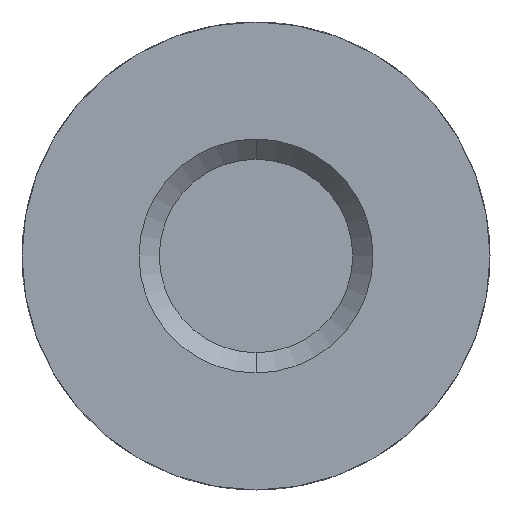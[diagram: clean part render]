
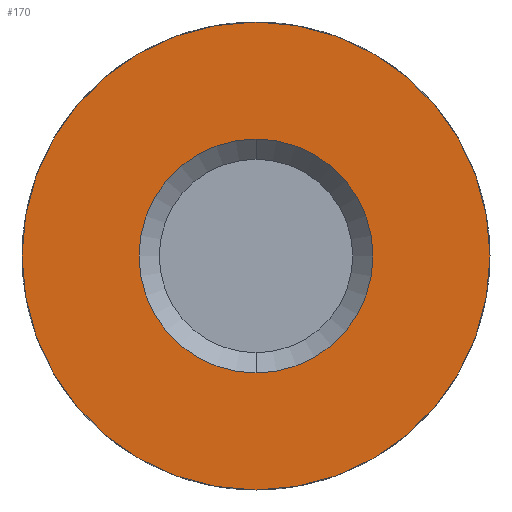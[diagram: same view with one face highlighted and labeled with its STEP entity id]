
A CAD part, front view. The second image highlights one B-rep face of the part: STEP entity #170.
In plain terms, the highlighted planar face has unit normal (0, -1, 0).
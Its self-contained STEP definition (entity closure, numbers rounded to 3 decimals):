
#30 = DIRECTION ( 'NONE',  ( 0., 0., 1. ) ) ;
#59 = EDGE_CURVE ( 'NONE', #509, #511, #322, .T. ) ;
#74 = ORIENTED_EDGE ( 'NONE', *, *, #168, .T. ) ;
#81 = DIRECTION ( 'NONE',  ( 0., 1., 0. ) ) ;
#95 = DIRECTION ( 'NONE',  ( 0., 0., -1. ) ) ;
#124 = EDGE_LOOP ( 'NONE', ( #186, #239 ) ) ;
#127 = AXIS2_PLACEMENT_3D ( 'NONE', #184, #421, #30 ) ;
#145 = DIRECTION ( 'NONE',  ( 0., -1., 0. ) ) ;
#146 = EDGE_CURVE ( 'NONE', #248, #209, #537, .T. ) ;
#168 = EDGE_CURVE ( 'NONE', #511, #509, #222, .T. ) ;
#170 = ADVANCED_FACE ( 'NONE', ( #389, #414 ), #278, .T. ) ;
#178 = CARTESIAN_POINT ( 'NONE',  ( 0., 0., 2.5 ) ) ;
#184 = CARTESIAN_POINT ( 'NONE',  ( 0., 0., 0. ) ) ;
#185 = CARTESIAN_POINT ( 'NONE',  ( 0., 0., 0. ) ) ;
#186 = ORIENTED_EDGE ( 'NONE', *, *, #146, .F. ) ;
#209 = VERTEX_POINT ( 'NONE', #240 ) ;
#222 = CIRCLE ( 'NONE', #634, 2.5 ) ;
#239 = ORIENTED_EDGE ( 'NONE', *, *, #617, .F. ) ;
#240 = CARTESIAN_POINT ( 'NONE',  ( 0., 0., -5. ) ) ;
#242 = CARTESIAN_POINT ( 'NONE',  ( 0., 0., 5. ) ) ;
#248 = VERTEX_POINT ( 'NONE', #242 ) ;
#278 = PLANE ( 'NONE',  #330 ) ;
#310 = CARTESIAN_POINT ( 'NONE',  ( 0., 0., -2.5 ) ) ;
#322 = CIRCLE ( 'NONE', #341, 2.5 ) ;
#327 = CARTESIAN_POINT ( 'NONE',  ( 0., 0., 0. ) ) ;
#330 = AXIS2_PLACEMENT_3D ( 'NONE', #631, #145, #543 ) ;
#341 = AXIS2_PLACEMENT_3D ( 'NONE', #185, #624, #368 ) ;
#368 = DIRECTION ( 'NONE',  ( 0., 0., -1. ) ) ;
#370 = CARTESIAN_POINT ( 'NONE',  ( 0., 0., 0. ) ) ;
#389 = FACE_BOUND ( 'NONE', #640, .T. ) ;
#414 = FACE_OUTER_BOUND ( 'NONE', #124, .T. ) ;
#421 = DIRECTION ( 'NONE',  ( 0., 1., 0. ) ) ;
#461 = CIRCLE ( 'NONE', #127, 5. ) ;
#480 = DIRECTION ( 'NONE',  ( 0., 0., 1. ) ) ;
#482 = DIRECTION ( 'NONE',  ( 0., 1., 0. ) ) ;
#509 = VERTEX_POINT ( 'NONE', #178 ) ;
#511 = VERTEX_POINT ( 'NONE', #310 ) ;
#537 = CIRCLE ( 'NONE', #599, 5. ) ;
#543 = DIRECTION ( 'NONE',  ( 0., 0., -1. ) ) ;
#599 = AXIS2_PLACEMENT_3D ( 'NONE', #370, #81, #480 ) ;
#617 = EDGE_CURVE ( 'NONE', #209, #248, #461, .T. ) ;
#624 = DIRECTION ( 'NONE',  ( 0., 1., 0. ) ) ;
#631 = CARTESIAN_POINT ( 'NONE',  ( 3.75, 0., 0. ) ) ;
#634 = AXIS2_PLACEMENT_3D ( 'NONE', #327, #482, #95 ) ;
#640 = EDGE_LOOP ( 'NONE', ( #74, #642 ) ) ;
#642 = ORIENTED_EDGE ( 'NONE', *, *, #59, .T. ) ;
